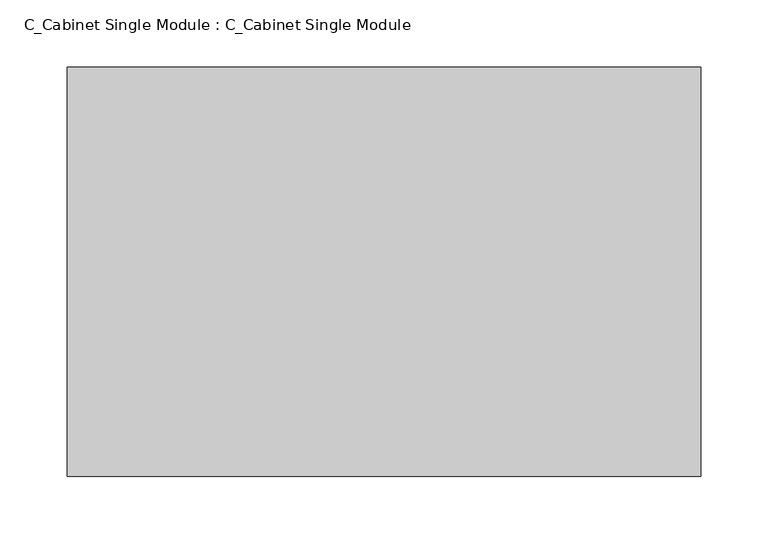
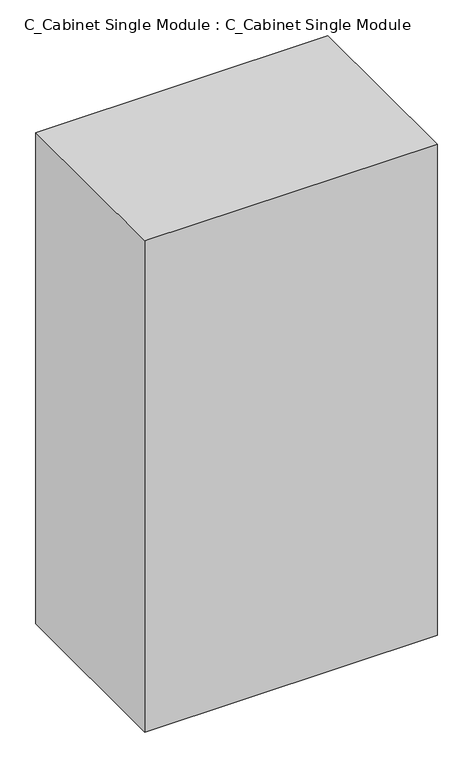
"""IFC4 building model written with IfcOpenShell, lengths in millimetres: furniture geometry, C_Cabinet Single Module : C_Cabinet Single Module."""

import ifcopenshell
import ifcopenshell.guid

model = None  # the IFC model being written
_history = None  # IfcOwnerHistory: only IFC2X3 demands one
_inside = {}  # id of a spatial element -> (the spatial element, [elements in it])
_under = {}  # id of a project, library or spatial element -> (it, [spatial elements below it])
_declared = {}  # id of a project -> (the project, [libraries it declares])
_typed = {}  # id of a type object -> (the type object, [elements of that type])
_made_of = {}  # id of a material, layer set ... -> (it, [elements and type objects made of it])


def new_model(schema):
    """Start an empty IFC model of exactly this schema.

    Asked for "IFC4X3", IfcOpenShell would pick the latest addendum, in which some entities
    have other attributes; the version numbers below select the first issue.
    IFC2X3 requires an IfcOwnerHistory on every rooted entity: one is made here for all.
    """
    global model, _history
    if schema == "IFC4X3":
        model = ifcopenshell.file(schema_version=(4, 3, 0, 0))
    else:
        model = ifcopenshell.file(schema=schema)
    _inside.clear()
    _under.clear()
    _declared.clear()
    _typed.clear()
    _made_of.clear()
    _history = None
    if model.schema == "IFC2X3":
        org = make("IfcOrganization", Name="unknown")
        user = make(
            "IfcPersonAndOrganization",
            ThePerson=make("IfcPerson", FamilyName="unknown"),
            TheOrganization=org,
        )
        app = make(
            "IfcApplication",
            ApplicationDeveloper=org,
            Version="unknown",
            ApplicationFullName="unknown",
            ApplicationIdentifier="unknown",
        )
        _history = make(
            "IfcOwnerHistory",
            OwningUser=user,
            OwningApplication=app,
            ChangeAction="ADDED",
            CreationDate=0,
        )
    return model


def make(cls, **values):
    """One entity of the class cls with the attributes given. An attribute that is None is left unset."""
    return model.create_entity(
        cls, **{name: value for name, value in values.items() if value is not None}
    )


def rooted(cls, **values):
    """An entity with a GlobalId (a new one), such as an element, a storey or a relation."""
    return make(cls, GlobalId=ifcopenshell.guid.new(), OwnerHistory=_history, **values)


def si_unit(unit_type, name, prefix=None):
    """IfcSIUnit, for example si_unit("LENGTHUNIT", "METRE", prefix="MILLI")."""
    return make("IfcSIUnit", UnitType=unit_type, Prefix=prefix, Name=name)


def assignment(units):
    """IfcUnitAssignment: the units of a project."""
    return None if units is None else make("IfcUnitAssignment", Units=units)


def point(xyz):
    """IfcCartesianPoint."""
    return None if xyz is None else make("IfcCartesianPoint", Coordinates=xyz)


def direction(xyz):
    """IfcDirection."""
    return None if xyz is None else make("IfcDirection", DirectionRatios=xyz)


def frame(location, z_axis=None, x_axis=None):
    """IfcAxis2Placement3D, a coordinate frame: its origin and axes. An axis left out is left unset."""
    return make(
        "IfcAxis2Placement3D",
        Location=point(location),
        Axis=direction(z_axis),
        RefDirection=direction(x_axis),
    )


def origin():
    """The frame at (0, 0, 0) with its axes left unset."""
    return frame((0.0, 0.0, 0.0))


def origin_with_axes():
    """The frame at (0, 0, 0) with the z axis (0, 0, 1) and the x axis (1, 0, 0) written out."""
    return frame((0.0, 0.0, 0.0), z_axis=(0.0, 0.0, 1.0), x_axis=(1.0, 0.0, 0.0))


def place(relative_to, where):
    """IfcLocalPlacement: puts the frame where relative to a parent placement (None: the world)."""
    return make(
        "IfcLocalPlacement", PlacementRelTo=relative_to, RelativePlacement=where
    )


def context(
    kind, dimensions, precision=None, world=None, true_north=None, identifier=None
):
    """IfcGeometricRepresentationContext, for example the 3D "Model" context."""
    return make(
        "IfcGeometricRepresentationContext",
        ContextIdentifier=identifier,
        ContextType=kind,
        CoordinateSpaceDimension=dimensions,
        Precision=precision,
        WorldCoordinateSystem=world,
        TrueNorth=true_north,
    )


def project(units=None, contexts=None):
    """IfcProject with its units and contexts."""
    return rooted(
        "IfcProject",
        Name="project",
        RepresentationContexts=contexts,
        UnitsInContext=assignment(units),
    )


def spatial(cls, under=None, at=None, **own):
    """A site, building, storey or space (cls), placed at a placement, below another one or the project."""
    s = rooted(cls, ObjectPlacement=at, **own)
    if under is not None:
        _under.setdefault(under.id(), (under, []))[1].append(s)
    return s


def polyline(points):
    """IfcPolyline through the points."""
    return make("IfcPolyline", Points=[point(p) for p in points])


def outline(outer, holes=None, kind="AREA"):
    """IfcArbitraryClosedProfileDef: a profile drawn as a closed curve; with holes, ...WithVoids."""
    if holes is None:
        return make("IfcArbitraryClosedProfileDef", ProfileType=kind, OuterCurve=outer)
    return make(
        "IfcArbitraryProfileDefWithVoids",
        ProfileType=kind,
        OuterCurve=outer,
        InnerCurves=holes,
    )


def extrude(swept, where, along, depth):
    """IfcExtrudedAreaSolid: the profile swept, set in the frame where, extruded along a direction by depth."""
    return make(
        "IfcExtrudedAreaSolid",
        SweptArea=swept,
        Position=where,
        ExtrudedDirection=direction(along),
        Depth=depth,
    )


def shape(context_of_items, identifier, shape_type, items):
    """IfcShapeRepresentation: the items that make up one representation, for example the "Body"."""
    return make(
        "IfcShapeRepresentation",
        ContextOfItems=context_of_items,
        RepresentationIdentifier=identifier,
        RepresentationType=shape_type,
        Items=items,
    )


def source(mapping_origin, context_of_items, identifier, shape_type, items):
    """IfcRepresentationMap: a shape defined once, which mapped items show again and again."""
    return make(
        "IfcRepresentationMap",
        MappingOrigin=mapping_origin,
        MappedRepresentation=shape(context_of_items, identifier, shape_type, items),
    )


def transform(
    local_origin,
    x_axis=None,
    y_axis=None,
    z_axis=None,
    scale=None,
    scale2=None,
    scale3=None,
    uniform=True,
):
    """IfcCartesianTransformationOperator3D, or its non-uniform kind. x_axis, y_axis, z_axis: its Axis1, 2, 3."""
    if uniform:
        return make(
            "IfcCartesianTransformationOperator3D",
            Axis1=direction(x_axis),
            Axis2=direction(y_axis),
            LocalOrigin=point(local_origin),
            Scale=scale,
            Axis3=direction(z_axis),
        )
    return make(
        "IfcCartesianTransformationOperator3DnonUniform",
        Axis1=direction(x_axis),
        Axis2=direction(y_axis),
        LocalOrigin=point(local_origin),
        Scale=scale,
        Axis3=direction(z_axis),
        Scale2=scale2,
        Scale3=scale3,
    )


def mapped(mapping_source, mapping_target):
    """IfcMappedItem: shows the shape of a source again, moved by a transform."""
    return make(
        "IfcMappedItem", MappingSource=mapping_source, MappingTarget=mapping_target
    )


def made_of(thing, what):
    """Note that an element or type object is made of a material, layer set ...; save() writes the relation."""
    if what is not None:
        _made_of.setdefault(what.id(), (what, []))[1].append(thing)
    return thing


def element(
    cls,
    number,
    at=None,
    inside=None,
    cuts=None,
    type_object=None,
    material=None,
    context=None,
    identifier="Body",
    shape_type=None,
    held_by="IfcProductDefinitionShape",
    body=None,
    shapes=None,
    **own,
):
    """One element of the class cls, such as IfcWall. Its Tag is "e" and its number.

    at: its placement. inside: the storey or other place that contains it. cuts: it is an
    opening in that element (IfcRelVoidsElement). A single representation is given by context,
    identifier, shape_type and body (its items); several are given by shapes. held_by: the class
    of the entity that holds the representations. save() writes the other relations.
    """
    e = rooted(cls, Tag="e%d" % number, ObjectPlacement=at, **own)
    if body is not None:
        shapes = [shape(context, identifier, shape_type, body)]
    if shapes is not None:
        e.Representation = make(held_by, Representations=shapes)
    if inside is not None:
        _inside.setdefault(inside.id(), (inside, []))[1].append(e)
    if cuts is not None:
        rooted(
            "IfcRelVoidsElement", RelatingBuildingElement=cuts, RelatedOpeningElement=e
        )
    if type_object is not None:
        _typed.setdefault(type_object.id(), (type_object, []))[1].append(e)
    return made_of(e, material)


def aggregate(whole, parts):
    """IfcRelAggregates: a whole, such as a stair, and the parts it consists of."""
    return rooted("IfcRelAggregates", RelatingObject=whole, RelatedObjects=parts)


def save(model, path):
    """Write the relations noted so far, then the file.

    IfcRelAggregates (storeys below a building ...), IfcRelContainedInSpatialStructure (elements
    in a storey), IfcRelDefinesByType, IfcRelAssociatesMaterial and IfcRelDeclares: one each for
    every whole, place, type object, material and project.
    """
    for whole, parts in _under.values():
        aggregate(whole, parts)
    for where, things in _inside.values():
        rooted(
            "IfcRelContainedInSpatialStructure",
            RelatedElements=things,
            RelatingStructure=where,
        )
    for kind, things in _typed.values():
        rooted("IfcRelDefinesByType", RelatedObjects=things, RelatingType=kind)
    for what, things in _made_of.values():
        rooted("IfcRelAssociatesMaterial", RelatedObjects=things, RelatingMaterial=what)
    for by, libraries in _declared.values():
        rooted("IfcRelDeclares", RelatingContext=by, RelatedDefinitions=libraries)
    model.write(path)


def c_cabinet_single_module_c_cabinet_single_module_c600df44(model_context):
    return source(origin(), model_context, "Body", "SweptSolid", [
        extrude(outline(polyline([(235.74375, 0.0), (235.74375, -304.8), (-235.74375, -304.8), (-235.74375, 0.0), (235.74375, 0.0)])), origin_with_axes(), (0.0, 0.0, 1.0), 838.2),
    ])


if __name__ == "__main__":
    model = new_model("IFC4")
    model_context = context("Model", 3, world=origin())
    ifc_project = project(units=[si_unit("LENGTHUNIT", "METRE", prefix="MILLI")], contexts=[model_context])
    site = spatial("IfcSite", under=ifc_project)
    building = spatial("IfcBuilding", under=site)
    placement = place(None, origin())
    c_cabinet_single_module_c_cabinet_single_module_shape = c_cabinet_single_module_c_cabinet_single_module_c600df44(model_context)
    element("IfcFurniture", 1, ObjectType="C_Cabinet Single Module : C_Cabinet Single Module", at=placement, inside=building, context=model_context, shape_type="MappedRepresentation", body=[
        mapped(c_cabinet_single_module_c_cabinet_single_module_shape, transform((0.0, 0.0, 0.0), x_axis=(1.0, 0.0, 0.0), y_axis=(0.0, 1.0, 0.0), z_axis=(0.0, 0.0, 1.0))),
    ])
    save(model, "model.ifc")
